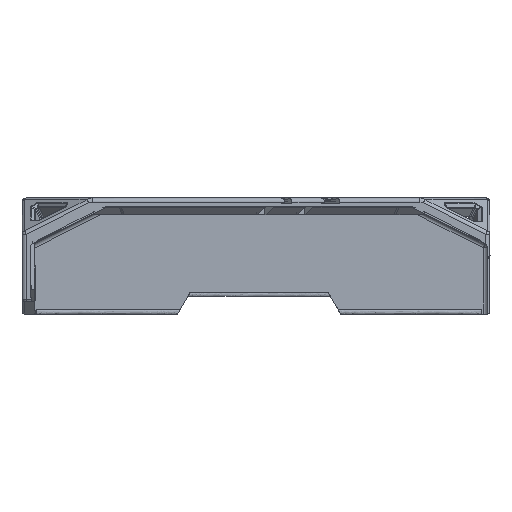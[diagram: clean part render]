
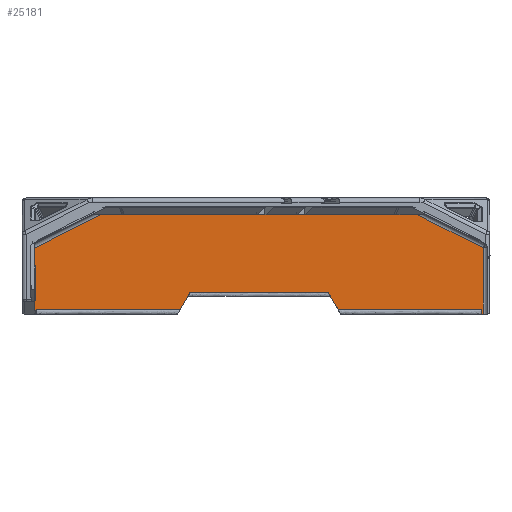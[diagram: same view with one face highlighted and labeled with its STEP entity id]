
A CAD part, left-side view. The second image highlights one B-rep face of the part: STEP entity #25181.
In plain terms, the highlighted planar face has unit normal (-1, 0, 0).
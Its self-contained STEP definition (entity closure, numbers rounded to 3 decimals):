
#1764=DIRECTION('',(0.,1.,0.));
#1765=VECTOR('',#1764,5.046);
#1766=CARTESIAN_POINT('',(256.7,8.879,1.2));
#1767=LINE('',#1766,#1765);
#1987=DIRECTION('',(0.,1.,0.));
#1988=VECTOR('',#1987,39.608);
#1989=CARTESIAN_POINT('',(256.7,-34.872,1.2));
#1990=LINE('',#1989,#1988);
#2878=CARTESIAN_POINT('',(256.7,19.085,-25.));
#2880=DIRECTION('',(0.,-1.,0.));
#2881=VECTOR('',#2880,34.615);
#2882=CARTESIAN_POINT('',(256.7,53.7,-25.));
#2883=LINE('',#2882,#2881);
#2884=CARTESIAN_POINT('',(256.7,-19.085,-25.));
#2892=DIRECTION('',(0.,-1.,0.));
#2893=VECTOR('',#2892,34.515);
#2894=CARTESIAN_POINT('',(256.7,-19.085,-25.));
#2895=LINE('',#2894,#2893);
#2896=DIRECTION('',(0.,0.5,-0.866));
#2897=VECTOR('',#2896,3.801);
#2898=CARTESIAN_POINT('',(256.7,17.183,-21.708));
#2899=LINE('',#2898,#2897);
#2916=DIRECTION('',(0.,0.,1.));
#2917=VECTOR('',#2916,1.);
#2918=CARTESIAN_POINT('',(256.7,53.7,-26.));
#2919=LINE('',#2918,#2917);
#2920=DIRECTION('',(0.,1.,0.));
#2921=VECTOR('',#2920,0.5);
#2922=CARTESIAN_POINT('',(256.7,53.7,-26.));
#2923=LINE('',#2922,#2921);
#2924=DIRECTION('',(0.,0.894,-0.447));
#2925=VECTOR('',#2924,20.298);
#2926=CARTESIAN_POINT('',(256.7,36.045,-1.));
#2927=LINE('',#2926,#2925);
#2928=DIRECTION('',(0.,-1.,0.));
#2929=VECTOR('',#2928,19.292);
#2930=CARTESIAN_POINT('',(256.7,36.045,-1.));
#2931=LINE('',#2930,#2929);
#2932=DIRECTION('',(0.,0.,1.));
#2933=VECTOR('',#2932,0.9);
#2934=CARTESIAN_POINT('',(256.7,16.753,0.7));
#2935=LINE('',#2934,#2933);
#2936=DIRECTION('',(0.,-1.,0.));
#2937=VECTOR('',#2936,7.875);
#2938=CARTESIAN_POINT('',(256.7,16.753,1.6));
#2939=LINE('',#2938,#2937);
#2940=DIRECTION('',(0.,0.,1.));
#2941=VECTOR('',#2940,0.4);
#2942=CARTESIAN_POINT('',(256.7,8.879,1.2));
#2943=LINE('',#2942,#2941);
#2944=DIRECTION('',(0.,0.,-1.));
#2945=VECTOR('',#2944,2.2);
#2946=CARTESIAN_POINT('',(256.7,13.925,1.2));
#2947=LINE('',#2946,#2945);
#2948=DIRECTION('',(0.,-1.,0.));
#2949=VECTOR('',#2948,6.743);
#2950=CARTESIAN_POINT('',(256.7,13.925,-1.));
#2951=LINE('',#2950,#2949);
#2952=DIRECTION('',(0.,0.,1.));
#2953=VECTOR('',#2952,0.9);
#2954=CARTESIAN_POINT('',(256.7,7.182,0.7));
#2955=LINE('',#2954,#2953);
#2956=DIRECTION('',(0.,-1.,0.));
#2957=VECTOR('',#2956,42.053);
#2958=CARTESIAN_POINT('',(256.7,7.182,1.6));
#2959=LINE('',#2958,#2957);
#2960=DIRECTION('',(0.,0.,-1.));
#2961=VECTOR('',#2960,0.4);
#2962=CARTESIAN_POINT('',(256.7,-34.872,1.6));
#2963=LINE('',#2962,#2961);
#2964=DIRECTION('',(0.,0.,-1.));
#2965=VECTOR('',#2964,2.2);
#2966=CARTESIAN_POINT('',(256.7,4.736,1.2));
#2967=LINE('',#2966,#2965);
#2968=DIRECTION('',(0.,-1.,0.));
#2969=VECTOR('',#2968,40.781);
#2970=CARTESIAN_POINT('',(256.7,4.736,-1.));
#2971=LINE('',#2970,#2969);
#2972=DIRECTION('',(0.,0.894,0.447));
#2973=VECTOR('',#2972,20.186);
#2974=CARTESIAN_POINT('',(256.7,-54.1,-10.028));
#2975=LINE('',#2974,#2973);
#2976=DIRECTION('',(0.,1.,0.));
#2977=VECTOR('',#2976,0.5);
#2978=CARTESIAN_POINT('',(256.7,-54.1,-26.));
#2979=LINE('',#2978,#2977);
#2980=DIRECTION('',(0.,0.,1.));
#2981=VECTOR('',#2980,1.);
#2982=CARTESIAN_POINT('',(256.7,-53.6,-26.));
#2983=LINE('',#2982,#2981);
#2984=DIRECTION('',(0.,-0.5,-0.866));
#2985=VECTOR('',#2984,1.155);
#2986=CARTESIAN_POINT('',(256.7,-16.606,-20.708));
#2987=LINE('',#2986,#2985);
#2988=DIRECTION('',(0.,1.,0.));
#2989=VECTOR('',#2988,33.212);
#2990=CARTESIAN_POINT('',(256.7,-16.606,-20.708));
#2991=LINE('',#2990,#2989);
#2992=DIRECTION('',(0.,-0.5,0.866));
#2993=VECTOR('',#2992,1.155);
#2994=CARTESIAN_POINT('',(256.7,17.183,-21.708));
#2995=LINE('',#2994,#2993);
#4566=DIRECTION('',(0.,0.,1.));
#4567=VECTOR('',#4566,15.972);
#4568=CARTESIAN_POINT('',(256.7,-54.1,-26.));
#4569=LINE('',#4568,#4567);
#5917=CARTESIAN_POINT('',(256.7,7.182,-1.));
#5924=CARTESIAN_POINT('',(256.7,13.925,-1.));
#5931=CARTESIAN_POINT('',(256.7,4.736,-1.));
#5943=CARTESIAN_POINT('',(256.7,16.753,-1.));
#5959=DIRECTION('',(0.,0.,-1.));
#5960=VECTOR('',#5959,1.7);
#5961=CARTESIAN_POINT('',(256.7,7.182,0.7));
#5962=LINE('',#5961,#5960);
#5983=CARTESIAN_POINT('',(256.7,7.182,1.6));
#6453=CARTESIAN_POINT('',(256.7,8.879,1.6));
#6519=DIRECTION('',(0.,0.,-1.));
#6520=VECTOR('',#6519,1.7);
#6521=CARTESIAN_POINT('',(256.7,16.753,0.7));
#6522=LINE('',#6521,#6520);
#16060=DIRECTION('',(0.,0.,-1.));
#16061=VECTOR('',#16060,15.922);
#16062=CARTESIAN_POINT('',(256.7,54.2,-10.078));
#16063=LINE('',#16062,#16061);
#17982=DIRECTION('',(0.,0.5,0.866));
#17983=VECTOR('',#17982,3.801);
#17984=CARTESIAN_POINT('',(256.7,-19.085,-25.));
#17985=LINE('',#17984,#17983);
#19382=CARTESIAN_POINT('',(256.7,-54.1,-26.));
#19383=VERTEX_POINT('',#19382);
#19458=CARTESIAN_POINT('',(256.7,36.045,-1.));
#19459=VERTEX_POINT('',#19458);
#19460=CARTESIAN_POINT('',(256.7,54.2,-10.078));
#19461=VERTEX_POINT('',#19460);
#19463=CARTESIAN_POINT('',(256.7,-54.1,-10.028));
#19465=VERTEX_POINT('',#19463);
#19470=CARTESIAN_POINT('',(256.7,-36.045,-1.));
#19471=VERTEX_POINT('',#19470);
#19494=CARTESIAN_POINT('',(256.7,54.2,-26.));
#19495=VERTEX_POINT('',#19494);
#19496=CARTESIAN_POINT('',(256.7,-53.6,-26.));
#19497=CARTESIAN_POINT('',(256.7,-53.6,-25.));
#19498=VERTEX_POINT('',#19496);
#19499=VERTEX_POINT('',#19497);
#19500=CARTESIAN_POINT('',(256.7,53.7,-26.));
#19501=CARTESIAN_POINT('',(256.7,53.7,-25.));
#19502=VERTEX_POINT('',#19500);
#19503=VERTEX_POINT('',#19501);
#19568=CARTESIAN_POINT('',(256.7,-34.872,1.2));
#19569=VERTEX_POINT('',#19568);
#20284=CARTESIAN_POINT('',(256.7,8.879,1.2));
#20285=VERTEX_POINT('',#20284);
#20612=VERTEX_POINT('',#5917);
#20613=VERTEX_POINT('',#5931);
#20614=VERTEX_POINT('',#5943);
#20615=VERTEX_POINT('',#5924);
#20624=CARTESIAN_POINT('',(256.7,4.736,1.2));
#20625=VERTEX_POINT('',#20624);
#20626=CARTESIAN_POINT('',(256.7,13.925,1.2));
#20627=VERTEX_POINT('',#20626);
#20628=CARTESIAN_POINT('',(256.7,7.182,0.7));
#20629=VERTEX_POINT('',#20628);
#20630=CARTESIAN_POINT('',(256.7,16.753,0.7));
#20631=VERTEX_POINT('',#20630);
#22445=VERTEX_POINT('',#5983);
#22449=CARTESIAN_POINT('',(256.7,-34.872,1.6));
#22450=VERTEX_POINT('',#22449);
#22466=VERTEX_POINT('',#6453);
#22467=CARTESIAN_POINT('',(256.7,16.753,1.6));
#22468=VERTEX_POINT('',#22467);
#22541=CARTESIAN_POINT('',(256.7,-17.183,-21.708));
#22542=CARTESIAN_POINT('',(256.7,17.183,-21.708));
#22543=VERTEX_POINT('',#22541);
#22544=VERTEX_POINT('',#22542);
#22545=CARTESIAN_POINT('',(256.7,-16.606,-20.708));
#22546=CARTESIAN_POINT('',(256.7,16.606,-20.708));
#22547=VERTEX_POINT('',#22545);
#22548=VERTEX_POINT('',#22546);
#22550=VERTEX_POINT('',#2878);
#22551=VERTEX_POINT('',#2884);
#25121=CARTESIAN_POINT('',(256.7,-35.,-1.));
#25122=DIRECTION('',(1.,0.,0.));
#25123=DIRECTION('',(0.,1.,0.));
#25124=AXIS2_PLACEMENT_3D('',#25121,#25122,#25123);
#25125=PLANE('',#25124);
#25126=ORIENTED_EDGE('',*,*,#25097,.T.);
#25127=ORIENTED_EDGE('',*,*,#25067,.F.);
#25129=ORIENTED_EDGE('',*,*,#25128,.F.);
#25130=ORIENTED_EDGE('',*,*,#25049,.T.);
#25132=ORIENTED_EDGE('',*,*,#25131,.F.);
#25134=ORIENTED_EDGE('',*,*,#25133,.F.);
#25136=ORIENTED_EDGE('',*,*,#25135,.T.);
#25138=ORIENTED_EDGE('',*,*,#25137,.F.);
#25140=ORIENTED_EDGE('',*,*,#25139,.T.);
#25142=ORIENTED_EDGE('',*,*,#25141,.T.);
#25144=ORIENTED_EDGE('',*,*,#25143,.F.);
#25145=ORIENTED_EDGE('',*,*,#23960,.T.);
#25147=ORIENTED_EDGE('',*,*,#25146,.T.);
#25149=ORIENTED_EDGE('',*,*,#25148,.T.);
#25151=ORIENTED_EDGE('',*,*,#25150,.F.);
#25153=ORIENTED_EDGE('',*,*,#25152,.T.);
#25155=ORIENTED_EDGE('',*,*,#25154,.T.);
#25157=ORIENTED_EDGE('',*,*,#25156,.T.);
#25158=ORIENTED_EDGE('',*,*,#24102,.T.);
#25160=ORIENTED_EDGE('',*,*,#25159,.T.);
#25162=ORIENTED_EDGE('',*,*,#25161,.T.);
#25164=ORIENTED_EDGE('',*,*,#25163,.F.);
#25166=ORIENTED_EDGE('',*,*,#25165,.F.);
#25167=ORIENTED_EDGE('',*,*,#24991,.T.);
#25169=ORIENTED_EDGE('',*,*,#25168,.T.);
#25170=ORIENTED_EDGE('',*,*,#25082,.F.);
#25172=ORIENTED_EDGE('',*,*,#25171,.T.);
#25174=ORIENTED_EDGE('',*,*,#25173,.F.);
#25176=ORIENTED_EDGE('',*,*,#25175,.T.);
#25178=ORIENTED_EDGE('',*,*,#25177,.F.);
#25179=EDGE_LOOP('',(#25126,#25127,#25129,#25130,#25132,#25134,#25136,#25138,
#25140,#25142,#25144,#25145,#25147,#25149,#25151,#25153,#25155,#25157,#25158,
#25160,#25162,#25164,#25166,#25167,#25169,#25170,#25172,#25174,#25176,#25178));
#25180=FACE_OUTER_BOUND('',#25179,.F.);
#25181=ADVANCED_FACE('',(#25180),#25125,.F.);
#23960=EDGE_CURVE('',#20285,#20627,#1767,.T.);
#24102=EDGE_CURVE('',#19569,#20625,#1990,.T.);
#24991=EDGE_CURVE('',#19383,#19498,#2979,.T.);
#25049=EDGE_CURVE('',#19502,#19495,#2923,.T.);
#25067=EDGE_CURVE('',#19503,#22550,#2883,.T.);
#25082=EDGE_CURVE('',#22551,#19499,#2895,.T.);
#25097=EDGE_CURVE('',#22544,#22550,#2899,.T.);
#25128=EDGE_CURVE('',#19502,#19503,#2919,.T.);
#25131=EDGE_CURVE('',#19461,#19495,#16063,.T.);
#25133=EDGE_CURVE('',#19459,#19461,#2927,.T.);
#25135=EDGE_CURVE('',#19459,#20614,#2931,.T.);
#25137=EDGE_CURVE('',#20631,#20614,#6522,.T.);
#25139=EDGE_CURVE('',#20631,#22468,#2935,.T.);
#25141=EDGE_CURVE('',#22468,#22466,#2939,.T.);
#25143=EDGE_CURVE('',#20285,#22466,#2943,.T.);
#25146=EDGE_CURVE('',#20627,#20615,#2947,.T.);
#25148=EDGE_CURVE('',#20615,#20612,#2951,.T.);
#25150=EDGE_CURVE('',#20629,#20612,#5962,.T.);
#25152=EDGE_CURVE('',#20629,#22445,#2955,.T.);
#25154=EDGE_CURVE('',#22445,#22450,#2959,.T.);
#25156=EDGE_CURVE('',#22450,#19569,#2963,.T.);
#25159=EDGE_CURVE('',#20625,#20613,#2967,.T.);
#25161=EDGE_CURVE('',#20613,#19471,#2971,.T.);
#25163=EDGE_CURVE('',#19465,#19471,#2975,.T.);
#25165=EDGE_CURVE('',#19383,#19465,#4569,.T.);
#25168=EDGE_CURVE('',#19498,#19499,#2983,.T.);
#25171=EDGE_CURVE('',#22551,#22543,#17985,.T.);
#25173=EDGE_CURVE('',#22547,#22543,#2987,.T.);
#25175=EDGE_CURVE('',#22547,#22548,#2991,.T.);
#25177=EDGE_CURVE('',#22544,#22548,#2995,.T.);
